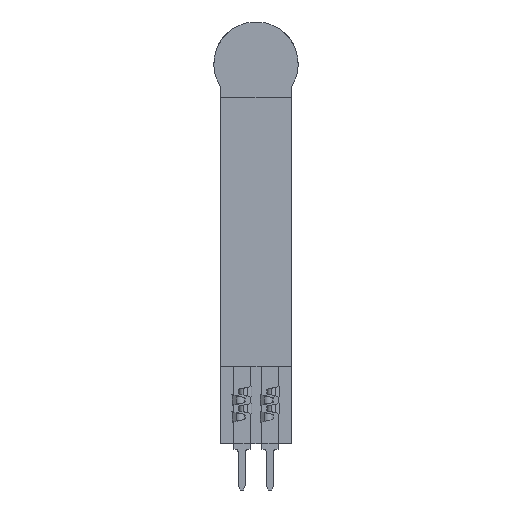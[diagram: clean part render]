
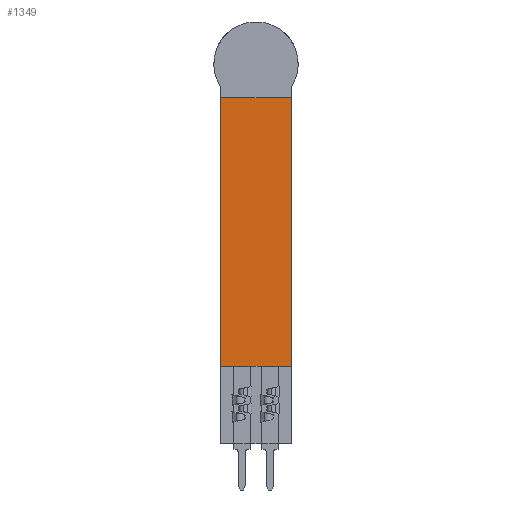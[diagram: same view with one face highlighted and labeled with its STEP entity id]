
A CAD part, front view. The second image highlights one B-rep face of the part: STEP entity #1349.
In plain terms, the highlighted planar face has unit normal (0, -1, 0).
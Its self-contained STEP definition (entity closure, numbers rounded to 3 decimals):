
#1067 = EDGE_CURVE ( 'NONE', #1069, #1200, #4663, .T. ) ;
#1069 = VERTEX_POINT ( 'NONE', #4671 ) ;
#1103 = EDGE_CURVE ( 'NONE', #1104, #1106, #4673, .T. ) ;
#1104 = VERTEX_POINT ( 'NONE', #4686 ) ;
#1106 = VERTEX_POINT ( 'NONE', #4685 ) ;
#1121 = EDGE_CURVE ( 'NONE', #1104, #1069, #3129, .T. ) ;
#1197 = EDGE_CURVE ( 'NONE', #1106, #1200, #3283, .T. ) ;
#1200 = VERTEX_POINT ( 'NONE', #3291 ) ;
#1349 = ADVANCED_FACE ( 'NONE', ( #4950 ), #4923, .F. ) ;
#1351 = EDGE_LOOP ( 'NONE', ( #1353, #1425, #1428, #1430 ) ) ;
#1353 = ORIENTED_EDGE ( 'NONE', *, *, #1103, .F. ) ;
#1425 = ORIENTED_EDGE ( 'NONE', *, *, #1121, .T. ) ;
#1428 = ORIENTED_EDGE ( 'NONE', *, *, #1067, .T. ) ;
#1430 = ORIENTED_EDGE ( 'NONE', *, *, #1197, .F. ) ;
#3128 = CARTESIAN_POINT ( 'NONE',  ( -3.303, 0., 0. ) ) ;
#3129 = LINE ( 'NONE', #3128, #3172 ) ;
#3171 = DIRECTION ( 'NONE',  ( 0., 0., -1. ) ) ;
#3172 = VECTOR ( 'NONE', #3171, 1000. ) ;
#3283 = LINE ( 'NONE', #3287, #3324 ) ;
#3287 = CARTESIAN_POINT ( 'NONE',  ( 3.047, 0., 0. ) ) ;
#3288 = DIRECTION ( 'NONE',  ( 0., 0., -1. ) ) ;
#3291 = CARTESIAN_POINT ( 'NONE',  ( 3.047, 0., -12.128 ) ) ;
#3324 = VECTOR ( 'NONE', #3288, 1000. ) ;
#4661 = VECTOR ( 'NONE', #4668, 1000. ) ;
#4662 = CARTESIAN_POINT ( 'NONE',  ( -19.773, 0., -12.128 ) ) ;
#4663 = LINE ( 'NONE', #4662, #4661 ) ;
#4668 = DIRECTION ( 'NONE',  ( 1., 0., 0. ) ) ;
#4671 = CARTESIAN_POINT ( 'NONE',  ( -3.303, 0., -12.128 ) ) ;
#4673 = LINE ( 'NONE', #4683, #4682 ) ;
#4681 = DIRECTION ( 'NONE',  ( 1., 0., 0. ) ) ;
#4682 = VECTOR ( 'NONE', #4681, 1000. ) ;
#4683 = CARTESIAN_POINT ( 'NONE',  ( -19.773, 0., 12.128 ) ) ;
#4685 = CARTESIAN_POINT ( 'NONE',  ( 3.047, 0., 12.128 ) ) ;
#4686 = CARTESIAN_POINT ( 'NONE',  ( -3.303, 0., 12.128 ) ) ;
#4887 = DIRECTION ( 'NONE',  ( 0., 0., 1. ) ) ;
#4888 = DIRECTION ( 'NONE',  ( 0., 1., 0. ) ) ;
#4922 = CARTESIAN_POINT ( 'NONE',  ( -19.773, 0., 0. ) ) ;
#4923 = PLANE ( 'NONE',  #4949 ) ;
#4949 = AXIS2_PLACEMENT_3D ( 'NONE', #4922, #4888, #4887 ) ;
#4950 = FACE_OUTER_BOUND ( 'NONE', #1351, .T. ) ;
